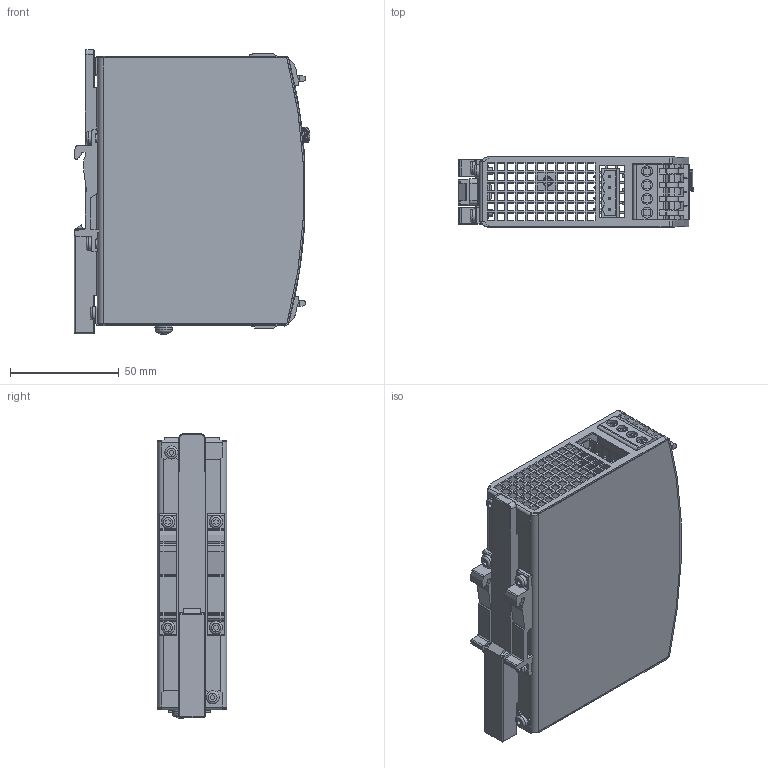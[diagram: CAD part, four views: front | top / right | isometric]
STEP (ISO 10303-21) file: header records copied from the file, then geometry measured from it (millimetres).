
FILE_DESCRIPTION((''),'2;1');
FILE_NAME('C:\Dokumente und Einstellungen\raabk\Eigene Dateien\tmp\375.01.stp','2009-01-22T14:57:38',('raabk'),(''),'Autodesk Inventor 2009','Autodesk Inventor 2009','');
FILE_SCHEMA(('AUTOMOTIVE_DESIGN { 1 0 10303 214 1 1 1 1 }'));
Length unit declared in the file: millimetre
Products named in the file (13): 375.01; HOUSING BODY 375.01; HOUSING COVER 375.01; SLIDER; T HOLDER; SCREW 3x6; WASHER 4; SCREW 4x8; POTENTIOMETER COVER; TERMINAL 4P R6,35; TERMINAL 3P R6,35; CONNECTOR 4P R5; LED GN
Assembly tree (19 placements, depth 2):
  375.01
    HOUSING BODY 375.01
    HOUSING COVER 375.01
    SLIDER
    T HOLDER  x2
    SCREW 3x6  x6
    WASHER 4
    SCREW 4x8
    POTENTIOMETER COVER
    TERMINAL 4P R6,35
    TERMINAL 3P R6,35
    CONNECTOR 4P R5
    LED GN  x2
Bounding box: 108.4 x 32 x 130.77 mm (x, y, z)
Volume: 72609.2 mm3; surface area: 88678.5 mm2
Topology: 19 solids, 19 shells, 2736 faces, 7532 edges, 5000 vertices
Faces by surface type: plane 1811, bspline 526, cylinder 340, torus 26, cone 20, sphere 13
Full cylindrical faces by diameter (mm): 1.25 x7, 3 x6, 3.1 x4, 3.621 x1, 4 x1, 4.355 x1, 4.5 x3, 4.6 x2, 5 x7, 6 x6
Entity records: 93442 total; most frequent: CARTESIAN_POINT 28302, ORIENTED_EDGE 14292, DIRECTION 11423, EDGE_CURVE 7146, VECTOR 4887, LINE 4887, VERTEX_POINT 4759, AXIS2_PLACEMENT_3D 3268
